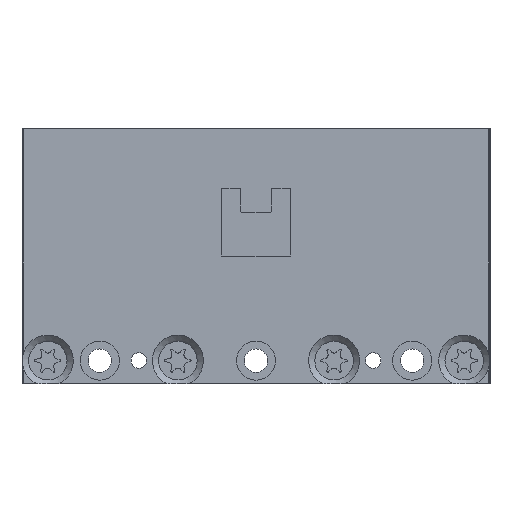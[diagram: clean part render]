
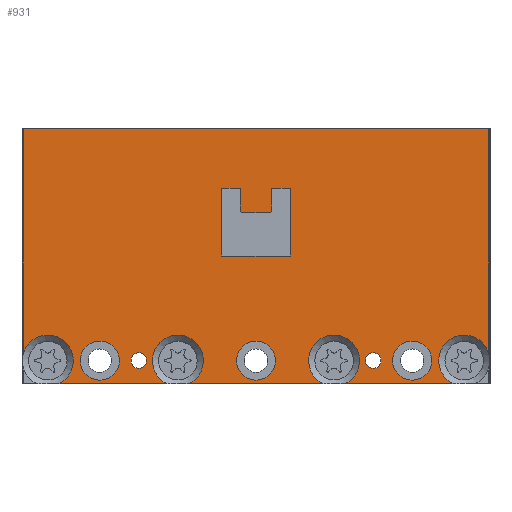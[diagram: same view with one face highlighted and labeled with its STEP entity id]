
A CAD part, front view. The second image highlights one B-rep face of the part: STEP entity #931.
In plain terms, the highlighted planar face has unit normal (0, -1, 0) as drawn and (0, 1, 0) by its records, which use the part's own axes.
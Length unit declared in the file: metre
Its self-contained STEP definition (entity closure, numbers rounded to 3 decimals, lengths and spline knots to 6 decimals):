
#931 = ADVANCED_FACE( '', ( #1386, #1387, #1388, #1389, #1390, #1391 ), #1392, .F. );
#1386 = FACE_BOUND( '', #2379, .T. );
#1387 = FACE_BOUND( '', #2380, .T. );
#1388 = FACE_BOUND( '', #2381, .T. );
#1389 = FACE_BOUND( '', #2382, .T. );
#1390 = FACE_BOUND( '', #2383, .T. );
#1391 = FACE_OUTER_BOUND( '', #2384, .T. );
#1392 = PLANE( '', #2385 );
#2379 = EDGE_LOOP( '', ( #3403 ) );
#2380 = EDGE_LOOP( '', ( #3404 ) );
#2381 = EDGE_LOOP( '', ( #3405 ) );
#2382 = EDGE_LOOP( '', ( #3406 ) );
#2383 = EDGE_LOOP( '', ( #3407 ) );
#2384 = EDGE_LOOP( '', ( #3408, #3409, #3410, #3411, #3412, #3413, #3414, #3415, #3416, #3417 ) );
#2385 = AXIS2_PLACEMENT_3D( '', #3418, #3419, #3420 );
#3403 = ORIENTED_EDGE( '', *, *, #6749, .F. );
#3404 = ORIENTED_EDGE( '', *, *, #6750, .F. );
#3405 = ORIENTED_EDGE( '', *, *, #6751, .F. );
#3406 = ORIENTED_EDGE( '', *, *, #6752, .F. );
#3407 = ORIENTED_EDGE( '', *, *, #6753, .F. );
#3408 = ORIENTED_EDGE( '', *, *, #6735, .T. );
#3409 = ORIENTED_EDGE( '', *, *, #6754, .T. );
#3410 = ORIENTED_EDGE( '', *, *, #6727, .F. );
#3411 = ORIENTED_EDGE( '', *, *, #6755, .T. );
#3412 = ORIENTED_EDGE( '', *, *, #6756, .T. );
#3413 = ORIENTED_EDGE( '', *, *, #6743, .F. );
#3414 = ORIENTED_EDGE( '', *, *, #6757, .T. );
#3415 = ORIENTED_EDGE( '', *, *, #6741, .F. );
#3416 = ORIENTED_EDGE( '', *, *, #6758, .T. );
#3417 = ORIENTED_EDGE( '', *, *, #6739, .F. );
#3418 = CARTESIAN_POINT( '', ( -0.04495, 0.002, 0.0245 ) );
#3419 = DIRECTION( '', ( 0., -1., 0. ) );
#3420 = DIRECTION( '', ( 0., 0., -1. ) );
#6727 = EDGE_CURVE( '', #7737, #7738, #7739, .T. );
#6735 = EDGE_CURVE( '', #7753, #7751, #7754, .T. );
#6739 = EDGE_CURVE( '', #7753, #7760, #7761, .T. );
#6741 = EDGE_CURVE( '', #7762, #7764, #7765, .T. );
#6743 = EDGE_CURVE( '', #7766, #7768, #7769, .T. );
#6749 = EDGE_CURVE( '', #7779, #7779, #7780, .T. );
#6750 = EDGE_CURVE( '', #7781, #7781, #7782, .T. );
#6751 = EDGE_CURVE( '', #7783, #7783, #7784, .T. );
#6752 = EDGE_CURVE( '', #7785, #7785, #7786, .T. );
#6753 = EDGE_CURVE( '', #7787, #7787, #7788, .T. );
#6754 = EDGE_CURVE( '', #7751, #7738, #7789, .T. );
#6755 = EDGE_CURVE( '', #7737, #7790, #7791, .T. );
#6756 = EDGE_CURVE( '', #7790, #7768, #7792, .T. );
#6757 = EDGE_CURVE( '', #7766, #7764, #7793, .T. );
#6758 = EDGE_CURVE( '', #7762, #7760, #7794, .T. );
#7737 = VERTEX_POINT( '', #9395 );
#7738 = VERTEX_POINT( '', #9396 );
#7739 = LINE( '', #9397, #9398 );
#7751 = VERTEX_POINT( '', #9415 );
#7753 = VERTEX_POINT( '', #9420 );
#7754 = CIRCLE( '', #9421, 0.0049 );
#7760 = VERTEX_POINT( '', #9438 );
#7761 = LINE( '', #9439, #9440 );
#7762 = VERTEX_POINT( '', #9441 );
#7764 = VERTEX_POINT( '', #9452 );
#7765 = LINE( '', #9453, #9454 );
#7766 = VERTEX_POINT( '', #9455 );
#7768 = VERTEX_POINT( '', #9466 );
#7769 = LINE( '', #9467, #9468 );
#7779 = VERTEX_POINT( '', #9491 );
#7780 = CIRCLE( '', #9492, 0.00375 );
#7781 = VERTEX_POINT( '', #9493 );
#7782 = CIRCLE( '', #9494, 0.00375 );
#7783 = VERTEX_POINT( '', #9495 );
#7784 = CIRCLE( '', #9496, 0.00375 );
#7785 = VERTEX_POINT( '', #9497 );
#7786 = CIRCLE( '', #9498, 0.0015 );
#7787 = VERTEX_POINT( '', #9499 );
#7788 = CIRCLE( '', #9500, 0.0015 );
#7789 = LINE( '', #9501, #9502 );
#7790 = VERTEX_POINT( '', #9503 );
#7791 = LINE( '', #9504, #9505 );
#7792 = CIRCLE( '', #9506, 0.0049 );
#7793 = CIRCLE( '', #9507, 0.0049 );
#7794 = CIRCLE( '', #9508, 0.0049 );
#9395 = CARTESIAN_POINT( '', ( 0.04475, 0.002, 0.0245 ) );
#9396 = CARTESIAN_POINT( '', ( -0.04475, 0.002, 0.0245 ) );
#9397 = CARTESIAN_POINT( '', ( 0.04495, 0.002, 0.0245 ) );
#9398 = VECTOR( '', #11668, 1. );
#9415 = CARTESIAN_POINT( '', ( -0.04475, 0.002, -0.018897 ) );
#9420 = CARTESIAN_POINT( '', ( -0.037844, 0.002, -0.0245 ) );
#9421 = AXIS2_PLACEMENT_3D( '', #11677, #11678, #11679 );
#9438 = CARTESIAN_POINT( '', ( -0.017156, 0.002, -0.0245 ) );
#9439 = CARTESIAN_POINT( '', ( -0.04495, 0.002, -0.0245 ) );
#9440 = VECTOR( '', #11682, 1. );
#9441 = CARTESIAN_POINT( '', ( -0.012844, 0.002, -0.0245 ) );
#9452 = CARTESIAN_POINT( '', ( 0.012844, 0.002, -0.0245 ) );
#9453 = CARTESIAN_POINT( '', ( -0.04495, 0.002, -0.0245 ) );
#9454 = VECTOR( '', #11683, 1. );
#9455 = CARTESIAN_POINT( '', ( 0.017156, 0.002, -0.0245 ) );
#9466 = CARTESIAN_POINT( '', ( 0.037844, 0.002, -0.0245 ) );
#9467 = CARTESIAN_POINT( '', ( -0.04495, 0.002, -0.0245 ) );
#9468 = VECTOR( '', #11684, 1. );
#9491 = CARTESIAN_POINT( '', ( -0.00375, 0.002, -0.0201 ) );
#9492 = AXIS2_PLACEMENT_3D( '', #11689, #11690, #11691 );
#9493 = CARTESIAN_POINT( '', ( -0.03375, 0.002, -0.0201 ) );
#9494 = AXIS2_PLACEMENT_3D( '', #11692, #11693, #11694 );
#9495 = CARTESIAN_POINT( '', ( 0.02625, 0.002, -0.0201 ) );
#9496 = AXIS2_PLACEMENT_3D( '', #11695, #11696, #11697 );
#9497 = CARTESIAN_POINT( '', ( -0.024, 0.002, -0.0201 ) );
#9498 = AXIS2_PLACEMENT_3D( '', #11698, #11699, #11700 );
#9499 = CARTESIAN_POINT( '', ( 0.021, 0.002, -0.0201 ) );
#9500 = AXIS2_PLACEMENT_3D( '', #11701, #11702, #11703 );
#9501 = CARTESIAN_POINT( '', ( -0.04475, 0.002, 0.0245 ) );
#9502 = VECTOR( '', #11704, 1. );
#9503 = CARTESIAN_POINT( '', ( 0.04475, 0.002, -0.018897 ) );
#9504 = CARTESIAN_POINT( '', ( 0.04475, 0.002, 0.0245 ) );
#9505 = VECTOR( '', #11705, 1. );
#9506 = AXIS2_PLACEMENT_3D( '', #11706, #11707, #11708 );
#9507 = AXIS2_PLACEMENT_3D( '', #11709, #11710, #11711 );
#9508 = AXIS2_PLACEMENT_3D( '', #11712, #11713, #11714 );
#11668 = DIRECTION( '', ( -1., 0., 0. ) );
#11677 = CARTESIAN_POINT( '', ( -0.04, 0.002, -0.0201 ) );
#11678 = DIRECTION( '', ( 0., -1., 0. ) );
#11679 = DIRECTION( '', ( 0., 0., -1. ) );
#11682 = DIRECTION( '', ( 1., 0., 0. ) );
#11683 = DIRECTION( '', ( 1., 0., 0. ) );
#11684 = DIRECTION( '', ( 1., 0., 0. ) );
#11689 = CARTESIAN_POINT( '', ( 0., 0.002, -0.0201 ) );
#11690 = DIRECTION( '', ( 0., 1., 0. ) );
#11691 = DIRECTION( '', ( -1., 0., 0. ) );
#11692 = CARTESIAN_POINT( '', ( -0.03, 0.002, -0.0201 ) );
#11693 = DIRECTION( '', ( 0., 1., 0. ) );
#11694 = DIRECTION( '', ( -1., 0., 0. ) );
#11695 = CARTESIAN_POINT( '', ( 0.03, 0.002, -0.0201 ) );
#11696 = DIRECTION( '', ( 0., 1., 0. ) );
#11697 = DIRECTION( '', ( -1., 0., 0. ) );
#11698 = CARTESIAN_POINT( '', ( -0.0225, 0.002, -0.0201 ) );
#11699 = DIRECTION( '', ( 0., 1., 0. ) );
#11700 = DIRECTION( '', ( -1., 0., 0. ) );
#11701 = CARTESIAN_POINT( '', ( 0.0225, 0.002, -0.0201 ) );
#11702 = DIRECTION( '', ( 0., 1., 0. ) );
#11703 = DIRECTION( '', ( -1., 0., 0. ) );
#11704 = DIRECTION( '', ( 0., 0., 1. ) );
#11705 = DIRECTION( '', ( 0., 0., -1. ) );
#11706 = CARTESIAN_POINT( '', ( 0.04, 0.002, -0.0201 ) );
#11707 = DIRECTION( '', ( 0., -1., 0. ) );
#11708 = DIRECTION( '', ( 0., 0., -1. ) );
#11709 = CARTESIAN_POINT( '', ( 0.015, 0.002, -0.0201 ) );
#11710 = DIRECTION( '', ( 0., -1., 0. ) );
#11711 = DIRECTION( '', ( 0., 0., -1. ) );
#11712 = CARTESIAN_POINT( '', ( -0.015, 0.002, -0.0201 ) );
#11713 = DIRECTION( '', ( 0., -1., 0. ) );
#11714 = DIRECTION( '', ( 0., 0., -1. ) );
